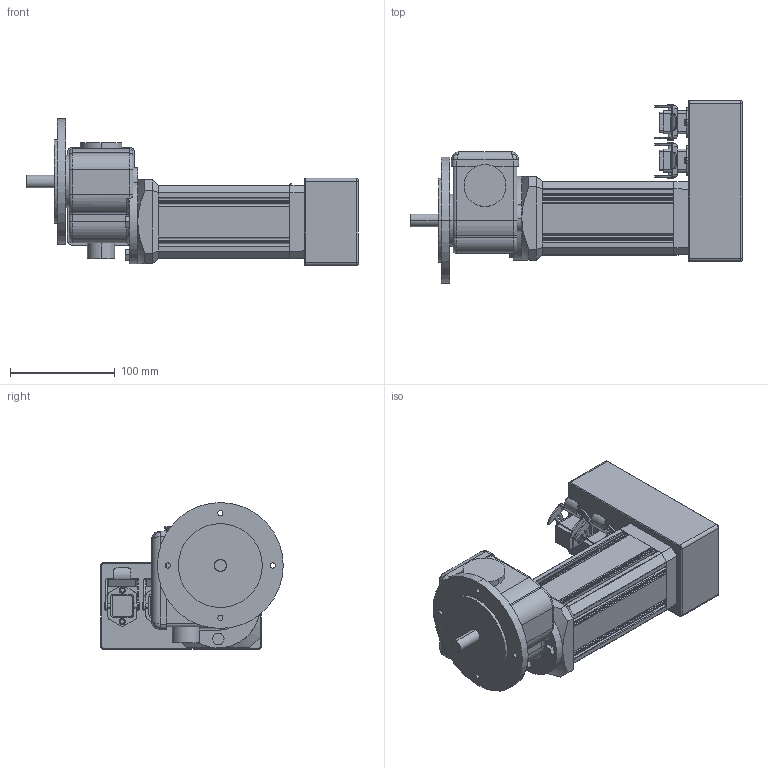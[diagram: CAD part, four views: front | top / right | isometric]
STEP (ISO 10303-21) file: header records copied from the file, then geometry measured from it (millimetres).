
FILE_DESCRIPTION(('OneSpaceDesigner STEP Export'),'2;1');
FILE_NAME('UECG323TH_GF23_Q.stp','2008-06-25T14:57:27',(''),(''),'OneSpace Designer STEP processor (Jan. 2003) for AP214(CD)(Solid Model)','OneSpace Designer 12.01D 09-Jul-2004 (C) CoCreate Software GmbH','');
FILE_SCHEMA(('AUTOMOTIVE_DESIGN_CC2 {1 2 10303 214 -1 1 5 1}'));
Length unit declared in the file: millimetre
Products named in the file (2): UECG323TH_GF23_Q
Assembly tree (1 placements, depth 2):
  UECG323TH_GF23_Q
    UECG323TH_GF23_Q
Bounding box: 316.5 x 174 x 140 mm (x, y, z)
Volume: 2088330.1 mm3; surface area: 176460.8 mm2
Topology: 1 solids, 1 shells, 585 faces, 1550 edges, 993 vertices
Faces by surface type: cylinder 283, plane 247, torus 36, bspline 12, cone 6, sphere 1
Entity records: 20535 total; most frequent: CARTESIAN_POINT 6564, ORIENTED_EDGE 3098, DIRECTION 2725, EDGE_CURVE 1549, VERTEX_POINT 993, AXIS2_PLACEMENT_3D 950, VECTOR 825, LINE 825
